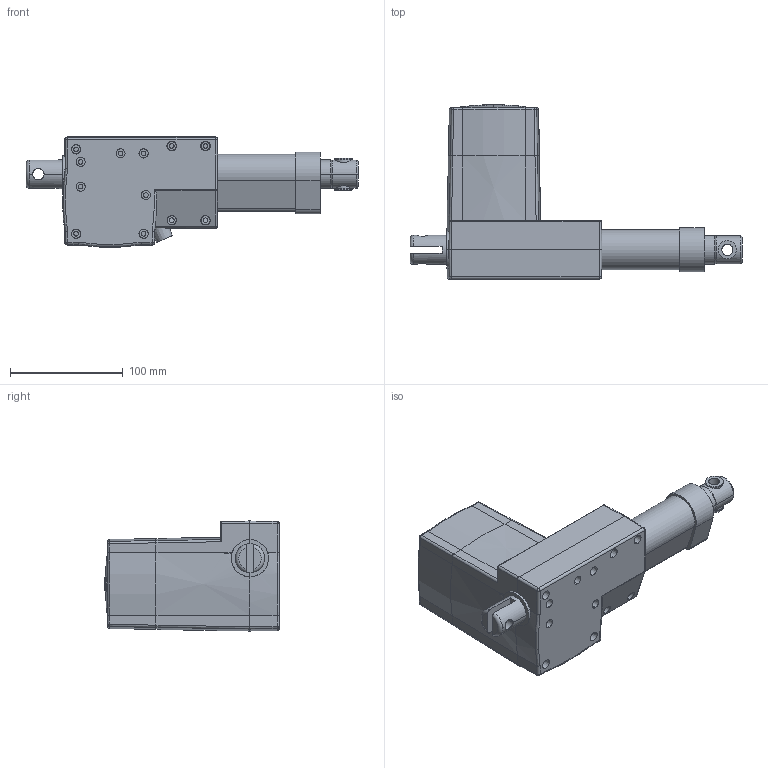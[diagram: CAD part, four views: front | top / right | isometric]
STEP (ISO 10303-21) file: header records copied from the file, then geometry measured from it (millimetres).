
FILE_DESCRIPTION((''),'2;1');
FILE_NAME('LAM3-S100_ASM','2007-07-12T',('amyliao'),(''),'PRO/ENGINEER BY PARAMETRIC TECHNOLOGY CORPORATION, 2003210','PRO/ENGINEER BY PARAMETRIC TECHNOLOGY CORPORATION, 2003210','');
FILE_SCHEMA(('CONFIG_CONTROL_DESIGN'));
Length unit declared in the file: millimetre
Products named in the file (11): LAM3-COVER-01; LAM3-100; M3-OUT-TUBE-COVER; LAM3-IN-TUBE; LAM3-IN-NUT; LAM3-05; LAM3-100_ASM; LAM3_MOTOR_COVER3_1_0430; LAM3-COVER-03; LAM3-04; LAM3-S100_ASM
Assembly tree (11 placements, depth 3):
  LAM3-S100_ASM
    LAM3-COVER-01
    LAM3-100_ASM
      LAM3-100
      M3-OUT-TUBE-COVER
      LAM3-IN-TUBE
      LAM3-IN-NUT
      LAM3-05  x2
    LAM3_MOTOR_COVER3_1_0430
    LAM3-COVER-03
    LAM3-04
Bounding box: 295 x 155 x 97.78 mm (x, y, z)
Volume: 534360.6 mm3; surface area: 255008.3 mm2
Topology: 10 solids, 10 shells, 746 faces, 2031 edges, 1330 vertices
Faces by surface type: plane 402, cylinder 220, cone 81, sphere 24, torus 15, bspline 4
Entity records: 25024 total; most frequent: CARTESIAN_POINT 5824, ORIENTED_EDGE 4014, DIRECTION 4007, EDGE_CURVE 2007, AXIS2_PLACEMENT_3D 1515, VERTEX_POINT 1318, VECTOR 977, LINE 977
